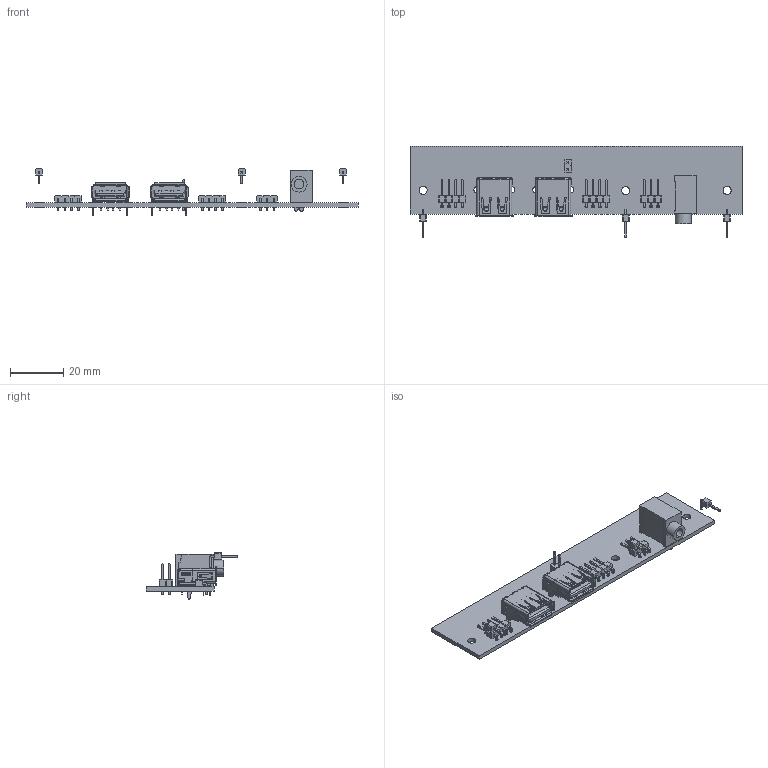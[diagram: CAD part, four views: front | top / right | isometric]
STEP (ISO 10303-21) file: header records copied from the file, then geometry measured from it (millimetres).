
FILE_DESCRIPTION(('KiCad electronic assembly'),'2;1');
FILE_NAME('Front Panel USB-LED.step','2023-10-08T00:17:18',('Pcbnew'),( 'Kicad'),'Open CASCADE STEP processor 7.6','KiCad to STEP converter' ,'Unknown');
FILE_SCHEMA(('AUTOMOTIVE_DESIGN { 1 0 10303 214 1 1 1 1 }'));
Length unit declared in the file: millimetre
Products named in the file (14): Front Panel USB-LED 1; PinHeader_1x01_P2.54mm_Horizontal; SOLID; PinHeader_1x04_P2.54mm_Horizontal; PinHeader_1x02_P2.54mm_Vertical; PinHeader_1x03_P2.54mm_Horizontal; 35RAPC2BVN4; KUSBEXHT-ASFS1N-B-RO_A; _autosave-Front Panel USB-LED PCB
Assembly tree (17 placements, depth 3):
  Front Panel USB-LED 1
    PinHeader_1x01_P2.54mm_Horizontal  x3
      SOLID
    PinHeader_1x04_P2.54mm_Horizontal  x2
      SOLID
    PinHeader_1x02_P2.54mm_Vertical
      SOLID
    PinHeader_1x03_P2.54mm_Horizontal
      SOLID
    35RAPC2BVN4
      SOLID
    KUSBEXHT-ASFS1N-B-RO_A  x2
      SOLID
    _autosave-Front Panel USB-LED PCB
Bounding box: 124.84 x 34.25 x 17.35 mm (x, y, z)
Volume: 8172.2 mm3; surface area: 11807.5 mm2
Topology: 11 solids, 11 shells, 1483 faces, 3922 edges, 2476 vertices
Faces by surface type: plane 972, cylinder 435, bspline 56, torus 16, cone 4
Full cylindrical faces by diameter (mm): 0.95 x8, 1 x13, 2.3 x4, 3.048 x3
Entity records: 63272 total; most frequent: CARTESIAN_POINT 17157, DIRECTION 7968, LINE 5354, VECTOR 5354, ORIENTED_EDGE 4384, PCURVE 4384, DEFINITIONAL_REPRESENTATION 4384, EDGE_CURVE 2192
